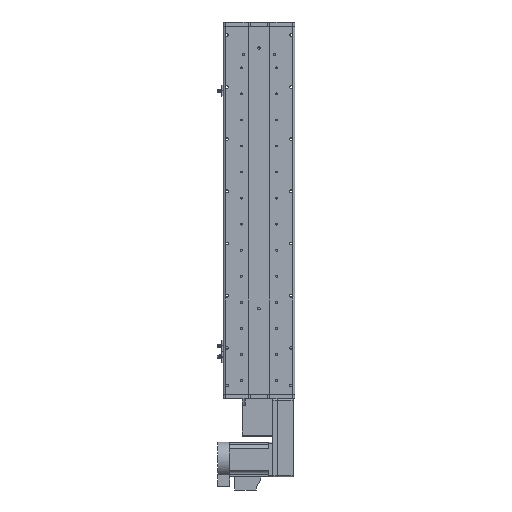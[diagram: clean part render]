
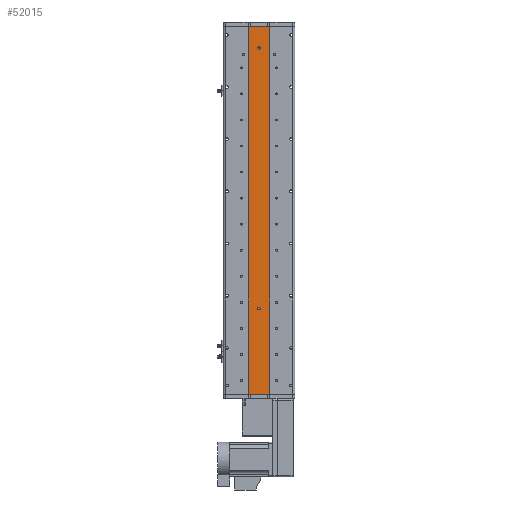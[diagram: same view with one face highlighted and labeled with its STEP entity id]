
A CAD part, front view. The second image highlights one B-rep face of the part: STEP entity #52015.
In plain terms, the highlighted planar face has unit normal (0, -1, 0).
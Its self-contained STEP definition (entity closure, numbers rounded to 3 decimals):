
#346 = VERTEX_POINT ( 'NONE', #59245 ) ;
#681 = ORIENTED_EDGE ( 'NONE', *, *, #5069, .F. ) ;
#1555 = VECTOR ( 'NONE', #6704, 1000. ) ;
#1821 = CARTESIAN_POINT ( 'NONE',  ( 25., 1., 423.5 ) ) ;
#3574 = DIRECTION ( 'NONE',  ( 0., 0., -1. ) ) ;
#3898 = DIRECTION ( 'NONE',  ( 0., 0., -1. ) ) ;
#5069 = EDGE_CURVE ( 'NONE', #7504, #38771, #32552, .T. ) ;
#6322 = ORIENTED_EDGE ( 'NONE', *, *, #31324, .T. ) ;
#6704 = DIRECTION ( 'NONE',  ( 1., 0., 0. ) ) ;
#7504 = VERTEX_POINT ( 'NONE', #29562 ) ;
#7768 = CARTESIAN_POINT ( 'NONE',  ( -25., 1., 423.5 ) ) ;
#9476 = EDGE_LOOP ( 'NONE', ( #32527, #681 ) ) ;
#10684 = ORIENTED_EDGE ( 'NONE', *, *, #40106, .F. ) ;
#10890 = DIRECTION ( 'NONE',  ( 1., 0., 0. ) ) ;
#11211 = CARTESIAN_POINT ( 'NONE',  ( 0., 1., 376.5 ) ) ;
#11656 = VERTEX_POINT ( 'NONE', #14645 ) ;
#12497 = FACE_OUTER_BOUND ( 'NONE', #32748, .T. ) ;
#12528 = AXIS2_PLACEMENT_3D ( 'NONE', #62020, #32966, #3898 ) ;
#14427 = LINE ( 'NONE', #35964, #50122 ) ;
#14645 = CARTESIAN_POINT ( 'NONE',  ( 25., 1., 423.5 ) ) ;
#15534 = EDGE_CURVE ( 'NONE', #38771, #7504, #38405, .T. ) ;
#16295 = DIRECTION ( 'NONE',  ( 0., -1., 0. ) ) ;
#16658 = DIRECTION ( 'NONE',  ( 0., 0., -1. ) ) ;
#17932 = AXIS2_PLACEMENT_3D ( 'NONE', #37087, #22671, #56611 ) ;
#18519 = ORIENTED_EDGE ( 'NONE', *, *, #49376, .T. ) ;
#20388 = CARTESIAN_POINT ( 'NONE',  ( -25., 1., -423.5 ) ) ;
#20667 = AXIS2_PLACEMENT_3D ( 'NONE', #45345, #16295, #50238 ) ;
#22671 = DIRECTION ( 'NONE',  ( 0., 1., 0. ) ) ;
#24543 = EDGE_CURVE ( 'NONE', #11656, #38322, #14427, .T. ) ;
#25416 = FACE_BOUND ( 'NONE', #36779, .T. ) ;
#26673 = ORIENTED_EDGE ( 'NONE', *, *, #52313, .F. ) ;
#28090 = CARTESIAN_POINT ( 'NONE',  ( 0., 1., 370.5 ) ) ;
#28213 = DIRECTION ( 'NONE',  ( 0., -1., 0. ) ) ;
#29562 = CARTESIAN_POINT ( 'NONE',  ( 0., 1., -223.5 ) ) ;
#29760 = VERTEX_POINT ( 'NONE', #28090 ) ;
#31324 = EDGE_CURVE ( 'NONE', #346, #33962, #53318, .T. ) ;
#31961 = DIRECTION ( 'NONE',  ( 0., 0., -1. ) ) ;
#32527 = ORIENTED_EDGE ( 'NONE', *, *, #15534, .F. ) ;
#32552 = CIRCLE ( 'NONE', #48831, 3. ) ;
#32652 = DIRECTION ( 'NONE',  ( 0., -1., 0. ) ) ;
#32748 = EDGE_LOOP ( 'NONE', ( #18519, #40989, #26673, #6322 ) ) ;
#32966 = DIRECTION ( 'NONE',  ( 0., -1., 0. ) ) ;
#33962 = VERTEX_POINT ( 'NONE', #20388 ) ;
#34825 = VECTOR ( 'NONE', #10890, 1000. ) ;
#34919 = EDGE_CURVE ( 'NONE', #44455, #29760, #61183, .T. ) ;
#35964 = CARTESIAN_POINT ( 'NONE',  ( 25., 1., 423.5 ) ) ;
#36779 = EDGE_LOOP ( 'NONE', ( #10684, #53827 ) ) ;
#37087 = CARTESIAN_POINT ( 'NONE',  ( 25., 1., 423.5 ) ) ;
#38322 = VERTEX_POINT ( 'NONE', #55164 ) ;
#38405 = CIRCLE ( 'NONE', #20667, 3. ) ;
#38771 = VERTEX_POINT ( 'NONE', #53830 ) ;
#38869 = VECTOR ( 'NONE', #31961, 1000. ) ;
#39920 = CARTESIAN_POINT ( 'NONE',  ( 25., 1., -423.5 ) ) ;
#40106 = EDGE_CURVE ( 'NONE', #29760, #44455, #57085, .T. ) ;
#40989 = ORIENTED_EDGE ( 'NONE', *, *, #24543, .F. ) ;
#44455 = VERTEX_POINT ( 'NONE', #11211 ) ;
#45345 = CARTESIAN_POINT ( 'NONE',  ( 0., 1., -226.5 ) ) ;
#48831 = AXIS2_PLACEMENT_3D ( 'NONE', #57282, #28213, #62152 ) ;
#49282 = LINE ( 'NONE', #39920, #34825 ) ;
#49376 = EDGE_CURVE ( 'NONE', #33962, #38322, #49282, .T. ) ;
#50122 = VECTOR ( 'NONE', #16658, 1000. ) ;
#50238 = DIRECTION ( 'NONE',  ( 0., 0., -1. ) ) ;
#52015 = ADVANCED_FACE ( 'NONE', ( #25416, #61089, #12497 ), #61294, .F. ) ;
#52313 = EDGE_CURVE ( 'NONE', #346, #11656, #53197, .T. ) ;
#53197 = LINE ( 'NONE', #1821, #1555 ) ;
#53318 = LINE ( 'NONE', #7768, #38869 ) ;
#53827 = ORIENTED_EDGE ( 'NONE', *, *, #34919, .F. ) ;
#53830 = CARTESIAN_POINT ( 'NONE',  ( 0., 1., -229.5 ) ) ;
#55164 = CARTESIAN_POINT ( 'NONE',  ( 25., 1., -423.5 ) ) ;
#56611 = DIRECTION ( 'NONE',  ( 0., 0., 1. ) ) ;
#57085 = CIRCLE ( 'NONE', #58347, 3. ) ;
#57282 = CARTESIAN_POINT ( 'NONE',  ( 0., 1., -226.5 ) ) ;
#58347 = AXIS2_PLACEMENT_3D ( 'NONE', #61714, #32652, #3574 ) ;
#59245 = CARTESIAN_POINT ( 'NONE',  ( -25., 1., 423.5 ) ) ;
#61089 = FACE_BOUND ( 'NONE', #9476, .T. ) ;
#61183 = CIRCLE ( 'NONE', #12528, 3. ) ;
#61294 = PLANE ( 'NONE',  #17932 ) ;
#61714 = CARTESIAN_POINT ( 'NONE',  ( 0., 1., 373.5 ) ) ;
#62020 = CARTESIAN_POINT ( 'NONE',  ( 0., 1., 373.5 ) ) ;
#62152 = DIRECTION ( 'NONE',  ( 0., 0., -1. ) ) ;
